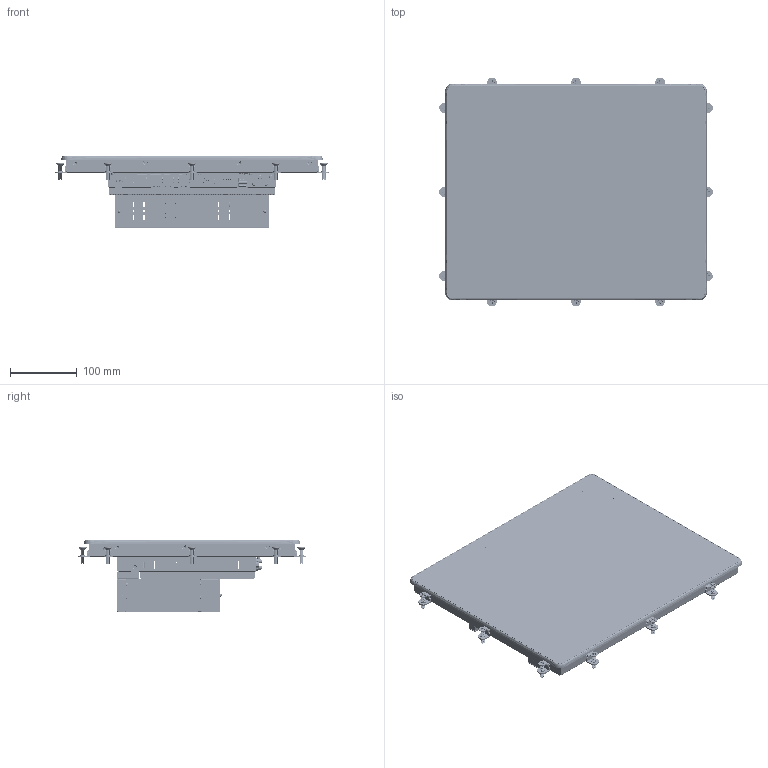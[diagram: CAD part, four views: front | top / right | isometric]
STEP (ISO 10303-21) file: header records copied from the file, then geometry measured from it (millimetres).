
FILE_DESCRIPTION((''),'2;1');
FILE_NAME('NP6A-170-Z','2026-06-02T11:27:54',('gijyu181'),(''),'CREO PARAMETRIC BY PTC INC, 2018050','CREO PARAMETRIC BY PTC INC, 2018050','');
FILE_SCHEMA(('CONFIG_CONTROL_DESIGN','SHAPE_APPEARANCE_LAYERS_GROUPS'));
Products named in the file (1): NP6A-170-Z
Bounding box: 410.1 x 342.6 x 108.1 mm (x, y, z)
Volume: 2456533.9 mm3; surface area: 1520785.2 mm2
Topology: 22 solids, 120 shells, 38902 faces, 114037 edges, 75259 vertices
Faces by surface type: plane 26060, cylinder 9787, extrusion 1476, bspline 618, cone 574, torus 281, sphere 102, revolution 4
Entity records: 1563341 total; most frequent: CARTESIAN_POINT 359749, ORIENTED_EDGE 227119, DIRECTION 202150, EDGE_CURVE 113975, VECTOR 88968, LINE 87492, VERTEX_POINT 75260, AXIS2_PLACEMENT_3D 56589
